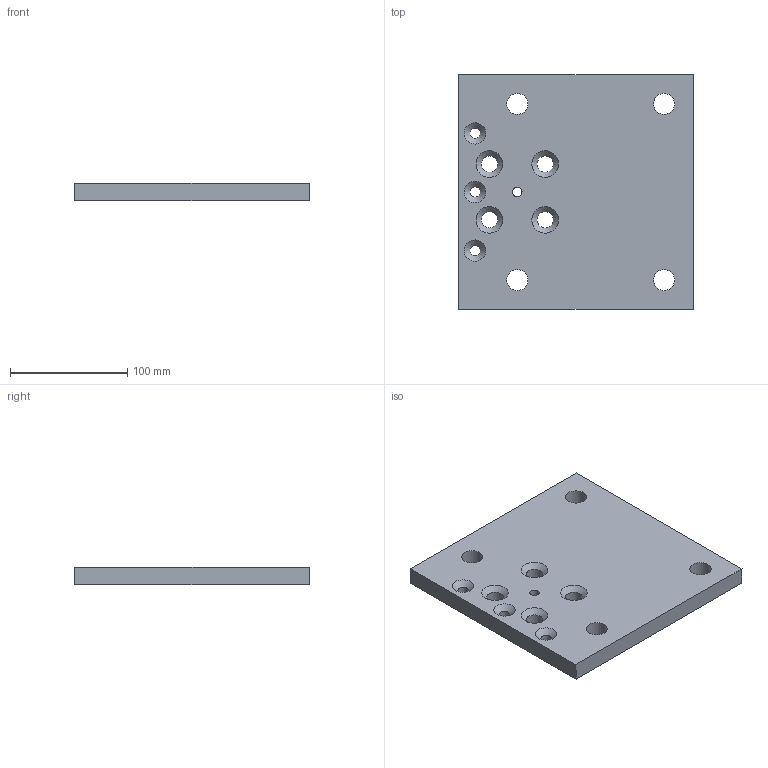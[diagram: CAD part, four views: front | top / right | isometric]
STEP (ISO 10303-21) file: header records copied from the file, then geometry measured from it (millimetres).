
FILE_DESCRIPTION(/* description */ (''),/* implementation_level */ '2;1');
FILE_NAME(/* name */ 'Pos157-Brede Strip 15x200-Aluminium-1st',/* time_stamp */ '2024-08-06T11:49:44+02:00',/* author */ (''),/* organization */ (''),/* preprocessor_version */ 'ST-DEVELOPER v16.5',/* originating_system */ 'HiCAD 2024 2901.2 Build 361',/* authorisation */ '');
FILE_SCHEMA (('AUTOMOTIVE_DESIGN { 1 0 10303 214 1 1 1 1 }'));
Length unit declared in the file: millimetre
Products named in the file (1): Pos157-Brede Strip 15x200-Aluminium-1st
Bounding box: 200 x 200 x 15 mm (x, y, z)
Volume: 568636.4 mm3; surface area: 95434.7 mm2
Topology: 1 solids, 1 shells, 25 faces, 70 edges, 57 vertices
Faces by surface type: cylinder 12, cone 7, plane 6
Full cylindrical faces by diameter (mm): 8 x1, 9 x3, 14 x4, 18 x4
Entity records: 1163 total; most frequent: DIRECTION 124, CARTESIAN_POINT 117, PRESENTATION_STYLE_ASSIGNMENT 87, COLOUR_RGB 87, DRAUGHTING_PRE_DEFINED_CURVE_FONT 86, CURVE_STYLE 86, OVER_RIDING_STYLED_ITEM 86, ORIENTED_EDGE 86
